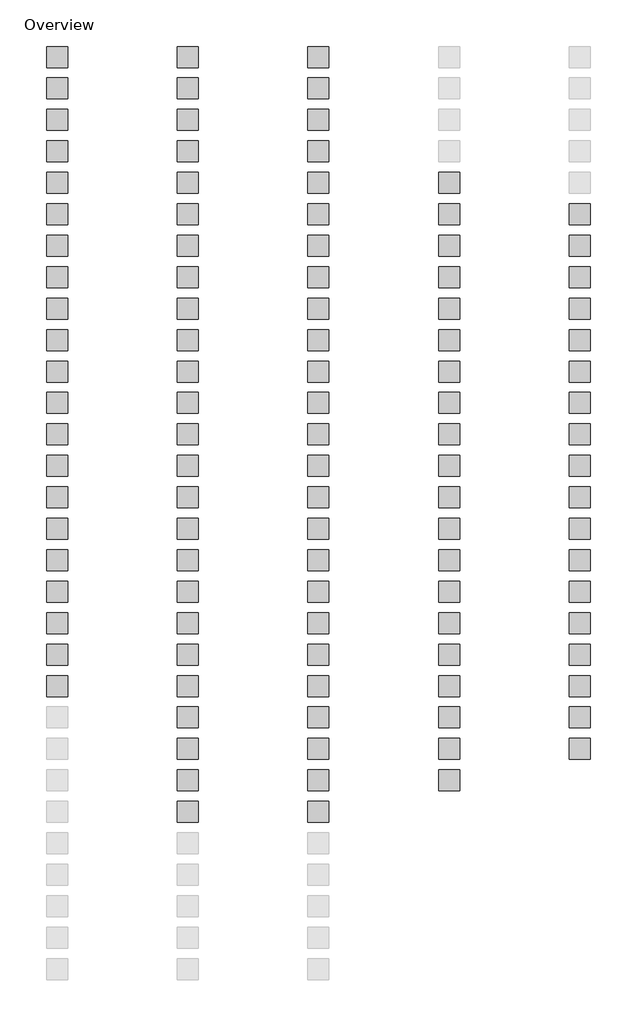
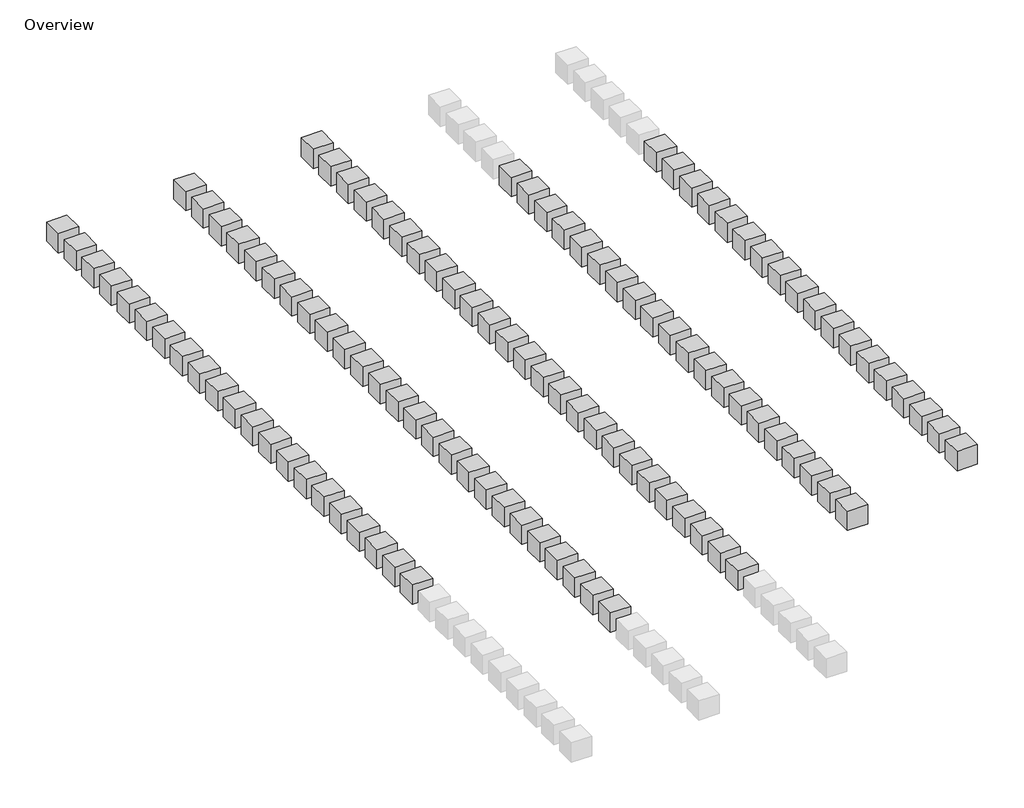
# One storey, part 3 of 5: 109 proxies.
"""IFC4 building model written with IfcOpenShell, lengths in millimetres."""

from ifc_helpers import new_model, si_unit, origin, place, context, project, spatial, transform, mapped, element, save
from components import material_box_material_box_61bd0c43

model = new_model("IFC4")

# Units and contexts
model_context = context("Model", 3, world=origin())
ifc_project = project(units=[si_unit("LENGTHUNIT", "METRE", prefix="MILLI")], contexts=[model_context])

# Site, building, storey
site = spatial("IfcSite", under=ifc_project)
building = spatial("IfcBuilding", under=site)
storey = spatial("IfcBuildingStorey", under=building, Name="Overview", Elevation=0.0)

# Proxies
placement = place(None, origin())
material_box_material_box_shape = material_box_material_box_61bd0c43(model_context)
element("IfcBuildingElementProxy", 1, Name="Material Box : Material Box", ObjectType="Material Box : Material Box", at=placement, inside=storey, context=model_context, shape_type="MappedRepresentation", body=[
    mapped(material_box_material_box_shape, transform((18647.4969971, -66489.0736223, 0.0), x_axis=(1.0, 0.0, 0.0), y_axis=(0.0, 1.0, 0.0), z_axis=(0.0, 0.0, 1.0))),
])
element("IfcBuildingElementProxy", 2, Name="Material Box : Material Box", ObjectType="Material Box : Material Box", at=placement, inside=storey, context=model_context, shape_type="MappedRepresentation", body=[
    mapped(material_box_material_box_shape, transform((4398.0969971, -40200.0736223, 0.0), x_axis=(1.0, 0.0, 0.0), y_axis=(0.0, 1.0, 0.0), z_axis=(0.0, 0.0, 1.0))),
])
element("IfcBuildingElementProxy", 3, Name="Material Box : Material Box", ObjectType="Material Box : Material Box", at=placement, inside=storey, context=model_context, shape_type="MappedRepresentation", body=[
    mapped(material_box_material_box_shape, transform((9147.8969971, -40200.0736223, 0.0), x_axis=(1.0, 0.0, 0.0), y_axis=(0.0, 1.0, 0.0), z_axis=(0.0, 0.0, 1.0))),
])
element("IfcBuildingElementProxy", 4, Name="Material Box : Material Box", ObjectType="Material Box : Material Box", at=placement, inside=storey, context=model_context, shape_type="MappedRepresentation", body=[
    mapped(material_box_material_box_shape, transform((4398.0969971, -41343.0736223, 0.0), x_axis=(1.0, 0.0, 0.0), y_axis=(0.0, 1.0, 0.0), z_axis=(0.0, 0.0, 1.0))),
])
element("IfcBuildingElementProxy", 5, Name="Material Box : Material Box", ObjectType="Material Box : Material Box", at=placement, inside=storey, context=model_context, shape_type="MappedRepresentation", body=[
    mapped(material_box_material_box_shape, transform((9147.8969971, -41343.0736223, 0.0), x_axis=(1.0, 0.0, 0.0), y_axis=(0.0, 1.0, 0.0), z_axis=(0.0, 0.0, 1.0))),
])
element("IfcBuildingElementProxy", 6, Name="Material Box : Material Box", ObjectType="Material Box : Material Box", at=placement, inside=storey, context=model_context, shape_type="MappedRepresentation", body=[
    mapped(material_box_material_box_shape, transform((4398.0969971, -42486.0736223, 0.0), x_axis=(1.0, 0.0, 0.0), y_axis=(0.0, 1.0, 0.0), z_axis=(0.0, 0.0, 1.0))),
])
element("IfcBuildingElementProxy", 7, Name="Material Box : Material Box", ObjectType="Material Box : Material Box", at=placement, inside=storey, context=model_context, shape_type="MappedRepresentation", body=[
    mapped(material_box_material_box_shape, transform((9147.8969971, -42486.0736223, 0.0), x_axis=(1.0, 0.0, 0.0), y_axis=(0.0, 1.0, 0.0), z_axis=(0.0, 0.0, 1.0))),
])
element("IfcBuildingElementProxy", 8, Name="Material Box : Material Box", ObjectType="Material Box : Material Box", at=placement, inside=storey, context=model_context, shape_type="MappedRepresentation", body=[
    mapped(material_box_material_box_shape, transform((4398.0969971, -43629.0736223, 0.0), x_axis=(1.0, 0.0, 0.0), y_axis=(0.0, 1.0, 0.0), z_axis=(0.0, 0.0, 1.0))),
])
element("IfcBuildingElementProxy", 9, Name="Material Box : Material Box", ObjectType="Material Box : Material Box", at=placement, inside=storey, context=model_context, shape_type="MappedRepresentation", body=[
    mapped(material_box_material_box_shape, transform((9147.8969971, -43629.0736223, 0.0), x_axis=(1.0, 0.0, 0.0), y_axis=(0.0, 1.0, 0.0), z_axis=(0.0, 0.0, 1.0))),
])
element("IfcBuildingElementProxy", 10, Name="Material Box : Material Box", ObjectType="Material Box : Material Box", at=placement, inside=storey, context=model_context, shape_type="MappedRepresentation", body=[
    mapped(material_box_material_box_shape, transform((4398.0969971, -44772.0736223, 0.0), x_axis=(1.0, 0.0, 0.0), y_axis=(0.0, 1.0, 0.0), z_axis=(0.0, 0.0, 1.0))),
])
element("IfcBuildingElementProxy", 11, Name="Material Box : Material Box", ObjectType="Material Box : Material Box", at=placement, inside=storey, context=model_context, shape_type="MappedRepresentation", body=[
    mapped(material_box_material_box_shape, transform((9147.8969971, -44772.0736223, 0.0), x_axis=(1.0, 0.0, 0.0), y_axis=(0.0, 1.0, 0.0), z_axis=(0.0, 0.0, 1.0))),
])
element("IfcBuildingElementProxy", 12, Name="Material Box : Material Box", ObjectType="Material Box : Material Box", at=placement, inside=storey, context=model_context, shape_type="MappedRepresentation", body=[
    mapped(material_box_material_box_shape, transform((4398.0969971, -45915.0736223, 0.0), x_axis=(1.0, 0.0, 0.0), y_axis=(0.0, 1.0, 0.0), z_axis=(0.0, 0.0, 1.0))),
])
element("IfcBuildingElementProxy", 13, Name="Material Box : Material Box", ObjectType="Material Box : Material Box", at=placement, inside=storey, context=model_context, shape_type="MappedRepresentation", body=[
    mapped(material_box_material_box_shape, transform((9147.8969971, -45915.0736223, 0.0), x_axis=(1.0, 0.0, 0.0), y_axis=(0.0, 1.0, 0.0), z_axis=(0.0, 0.0, 1.0))),
])
element("IfcBuildingElementProxy", 14, Name="Material Box : Material Box", ObjectType="Material Box : Material Box", at=placement, inside=storey, context=model_context, shape_type="MappedRepresentation", body=[
    mapped(material_box_material_box_shape, transform((4398.0969971, -47058.0736223, 0.0), x_axis=(1.0, 0.0, 0.0), y_axis=(0.0, 1.0, 0.0), z_axis=(0.0, 0.0, 1.0))),
])
element("IfcBuildingElementProxy", 15, Name="Material Box : Material Box", ObjectType="Material Box : Material Box", at=placement, inside=storey, context=model_context, shape_type="MappedRepresentation", body=[
    mapped(material_box_material_box_shape, transform((9147.8969971, -47058.0736223, 0.0), x_axis=(1.0, 0.0, 0.0), y_axis=(0.0, 1.0, 0.0), z_axis=(0.0, 0.0, 1.0))),
])
element("IfcBuildingElementProxy", 16, Name="Material Box : Material Box", ObjectType="Material Box : Material Box", at=placement, inside=storey, context=model_context, shape_type="MappedRepresentation", body=[
    mapped(material_box_material_box_shape, transform((4398.0969971, -48201.0736223, 0.0), x_axis=(1.0, 0.0, 0.0), y_axis=(0.0, 1.0, 0.0), z_axis=(0.0, 0.0, 1.0))),
])
element("IfcBuildingElementProxy", 17, Name="Material Box : Material Box", ObjectType="Material Box : Material Box", at=placement, inside=storey, context=model_context, shape_type="MappedRepresentation", body=[
    mapped(material_box_material_box_shape, transform((9147.8969971, -48201.0736223, 0.0), x_axis=(1.0, 0.0, 0.0), y_axis=(0.0, 1.0, 0.0), z_axis=(0.0, 0.0, 1.0))),
])
element("IfcBuildingElementProxy", 18, Name="Material Box : Material Box", ObjectType="Material Box : Material Box", at=placement, inside=storey, context=model_context, shape_type="MappedRepresentation", body=[
    mapped(material_box_material_box_shape, transform((4398.0969971, -49344.0736223, 0.0), x_axis=(1.0, 0.0, 0.0), y_axis=(0.0, 1.0, 0.0), z_axis=(0.0, 0.0, 1.0))),
])
element("IfcBuildingElementProxy", 19, Name="Material Box : Material Box", ObjectType="Material Box : Material Box", at=placement, inside=storey, context=model_context, shape_type="MappedRepresentation", body=[
    mapped(material_box_material_box_shape, transform((9147.8969971, -49344.0736223, 0.0), x_axis=(1.0, 0.0, 0.0), y_axis=(0.0, 1.0, 0.0), z_axis=(0.0, 0.0, 1.0))),
])
element("IfcBuildingElementProxy", 20, Name="Material Box : Material Box", ObjectType="Material Box : Material Box", at=placement, inside=storey, context=model_context, shape_type="MappedRepresentation", body=[
    mapped(material_box_material_box_shape, transform((4398.0969971, -50487.0736223, 0.0), x_axis=(1.0, 0.0, 0.0), y_axis=(0.0, 1.0, 0.0), z_axis=(0.0, 0.0, 1.0))),
])
element("IfcBuildingElementProxy", 21, Name="Material Box : Material Box", ObjectType="Material Box : Material Box", at=placement, inside=storey, context=model_context, shape_type="MappedRepresentation", body=[
    mapped(material_box_material_box_shape, transform((9147.8969971, -50487.0736223, 0.0), x_axis=(1.0, 0.0, 0.0), y_axis=(0.0, 1.0, 0.0), z_axis=(0.0, 0.0, 1.0))),
])
element("IfcBuildingElementProxy", 22, Name="Material Box : Material Box", ObjectType="Material Box : Material Box", at=placement, inside=storey, context=model_context, shape_type="MappedRepresentation", body=[
    mapped(material_box_material_box_shape, transform((4398.0969971, -51630.0736223, 0.0), x_axis=(1.0, 0.0, 0.0), y_axis=(0.0, 1.0, 0.0), z_axis=(0.0, 0.0, 1.0))),
])
element("IfcBuildingElementProxy", 23, Name="Material Box : Material Box", ObjectType="Material Box : Material Box", at=placement, inside=storey, context=model_context, shape_type="MappedRepresentation", body=[
    mapped(material_box_material_box_shape, transform((9147.8969971, -51630.0736223, 0.0), x_axis=(1.0, 0.0, 0.0), y_axis=(0.0, 1.0, 0.0), z_axis=(0.0, 0.0, 1.0))),
])
element("IfcBuildingElementProxy", 24, Name="Material Box : Material Box", ObjectType="Material Box : Material Box", at=placement, inside=storey, context=model_context, shape_type="MappedRepresentation", body=[
    mapped(material_box_material_box_shape, transform((4398.0969971, -52773.0736223, 0.0), x_axis=(1.0, 0.0, 0.0), y_axis=(0.0, 1.0, 0.0), z_axis=(0.0, 0.0, 1.0))),
])
element("IfcBuildingElementProxy", 25, Name="Material Box : Material Box", ObjectType="Material Box : Material Box", at=placement, inside=storey, context=model_context, shape_type="MappedRepresentation", body=[
    mapped(material_box_material_box_shape, transform((9147.8969971, -52773.0736223, 0.0), x_axis=(1.0, 0.0, 0.0), y_axis=(0.0, 1.0, 0.0), z_axis=(0.0, 0.0, 1.0))),
])
element("IfcBuildingElementProxy", 26, Name="Material Box : Material Box", ObjectType="Material Box : Material Box", at=placement, inside=storey, context=model_context, shape_type="MappedRepresentation", body=[
    mapped(material_box_material_box_shape, transform((4398.0969971, -53916.0736223, 0.0), x_axis=(1.0, 0.0, 0.0), y_axis=(0.0, 1.0, 0.0), z_axis=(0.0, 0.0, 1.0))),
])
element("IfcBuildingElementProxy", 27, Name="Material Box : Material Box", ObjectType="Material Box : Material Box", at=placement, inside=storey, context=model_context, shape_type="MappedRepresentation", body=[
    mapped(material_box_material_box_shape, transform((9147.8969971, -53916.0736223, 0.0), x_axis=(1.0, 0.0, 0.0), y_axis=(0.0, 1.0, 0.0), z_axis=(0.0, 0.0, 1.0))),
])
element("IfcBuildingElementProxy", 28, Name="Material Box : Material Box", ObjectType="Material Box : Material Box", at=placement, inside=storey, context=model_context, shape_type="MappedRepresentation", body=[
    mapped(material_box_material_box_shape, transform((4398.0969971, -55059.0736223, 0.0), x_axis=(1.0, 0.0, 0.0), y_axis=(0.0, 1.0, 0.0), z_axis=(0.0, 0.0, 1.0))),
])
element("IfcBuildingElementProxy", 29, Name="Material Box : Material Box", ObjectType="Material Box : Material Box", at=placement, inside=storey, context=model_context, shape_type="MappedRepresentation", body=[
    mapped(material_box_material_box_shape, transform((9147.8969971, -55059.0736223, 0.0), x_axis=(1.0, 0.0, 0.0), y_axis=(0.0, 1.0, 0.0), z_axis=(0.0, 0.0, 1.0))),
])
element("IfcBuildingElementProxy", 30, Name="Material Box : Material Box", ObjectType="Material Box : Material Box", at=placement, inside=storey, context=model_context, shape_type="MappedRepresentation", body=[
    mapped(material_box_material_box_shape, transform((4398.0969971, -56202.0736223, 0.0), x_axis=(1.0, 0.0, 0.0), y_axis=(0.0, 1.0, 0.0), z_axis=(0.0, 0.0, 1.0))),
])
element("IfcBuildingElementProxy", 31, Name="Material Box : Material Box", ObjectType="Material Box : Material Box", at=placement, inside=storey, context=model_context, shape_type="MappedRepresentation", body=[
    mapped(material_box_material_box_shape, transform((9147.8969971, -56202.0736223, 0.0), x_axis=(1.0, 0.0, 0.0), y_axis=(0.0, 1.0, 0.0), z_axis=(0.0, 0.0, 1.0))),
])
element("IfcBuildingElementProxy", 32, Name="Material Box : Material Box", ObjectType="Material Box : Material Box", at=placement, inside=storey, context=model_context, shape_type="MappedRepresentation", body=[
    mapped(material_box_material_box_shape, transform((4398.0969971, -57345.0736223, 0.0), x_axis=(1.0, 0.0, 0.0), y_axis=(0.0, 1.0, 0.0), z_axis=(0.0, 0.0, 1.0))),
])
element("IfcBuildingElementProxy", 33, Name="Material Box : Material Box", ObjectType="Material Box : Material Box", at=placement, inside=storey, context=model_context, shape_type="MappedRepresentation", body=[
    mapped(material_box_material_box_shape, transform((9147.8969971, -57345.0736223, 0.0), x_axis=(1.0, 0.0, 0.0), y_axis=(0.0, 1.0, 0.0), z_axis=(0.0, 0.0, 1.0))),
])
element("IfcBuildingElementProxy", 34, Name="Material Box : Material Box", ObjectType="Material Box : Material Box", at=placement, inside=storey, context=model_context, shape_type="MappedRepresentation", body=[
    mapped(material_box_material_box_shape, transform((13897.6969971, -40200.0736223, 0.0), x_axis=(1.0, 0.0, 0.0), y_axis=(0.0, 1.0, 0.0), z_axis=(0.0, 0.0, 1.0))),
])
element("IfcBuildingElementProxy", 35, Name="Material Box : Material Box", ObjectType="Material Box : Material Box", at=placement, inside=storey, context=model_context, shape_type="MappedRepresentation", body=[
    mapped(material_box_material_box_shape, transform((13897.6969971, -41343.0736223, 0.0), x_axis=(1.0, 0.0, 0.0), y_axis=(0.0, 1.0, 0.0), z_axis=(0.0, 0.0, 1.0))),
])
element("IfcBuildingElementProxy", 36, Name="Material Box : Material Box", ObjectType="Material Box : Material Box", at=placement, inside=storey, context=model_context, shape_type="MappedRepresentation", body=[
    mapped(material_box_material_box_shape, transform((13897.6969971, -42486.0736223, 0.0), x_axis=(1.0, 0.0, 0.0), y_axis=(0.0, 1.0, 0.0), z_axis=(0.0, 0.0, 1.0))),
])
element("IfcBuildingElementProxy", 37, Name="Material Box : Material Box", ObjectType="Material Box : Material Box", at=placement, inside=storey, context=model_context, shape_type="MappedRepresentation", body=[
    mapped(material_box_material_box_shape, transform((13897.6969971, -43629.0736223, 0.0), x_axis=(1.0, 0.0, 0.0), y_axis=(0.0, 1.0, 0.0), z_axis=(0.0, 0.0, 1.0))),
])
element("IfcBuildingElementProxy", 38, Name="Material Box : Material Box", ObjectType="Material Box : Material Box", at=placement, inside=storey, context=model_context, shape_type="MappedRepresentation", body=[
    mapped(material_box_material_box_shape, transform((13897.6969971, -44772.0736223, 0.0), x_axis=(1.0, 0.0, 0.0), y_axis=(0.0, 1.0, 0.0), z_axis=(0.0, 0.0, 1.0))),
])
element("IfcBuildingElementProxy", 39, Name="Material Box : Material Box", ObjectType="Material Box : Material Box", at=placement, inside=storey, context=model_context, shape_type="MappedRepresentation", body=[
    mapped(material_box_material_box_shape, transform((18647.4969971, -44772.0736223, 0.0), x_axis=(1.0, 0.0, 0.0), y_axis=(0.0, 1.0, 0.0), z_axis=(0.0, 0.0, 1.0))),
])
element("IfcBuildingElementProxy", 40, Name="Material Box : Material Box", ObjectType="Material Box : Material Box", at=placement, inside=storey, context=model_context, shape_type="MappedRepresentation", body=[
    mapped(material_box_material_box_shape, transform((13897.6969971, -45915.0736223, 0.0), x_axis=(1.0, 0.0, 0.0), y_axis=(0.0, 1.0, 0.0), z_axis=(0.0, 0.0, 1.0))),
])
element("IfcBuildingElementProxy", 41, Name="Material Box : Material Box", ObjectType="Material Box : Material Box", at=placement, inside=storey, context=model_context, shape_type="MappedRepresentation", body=[
    mapped(material_box_material_box_shape, transform((18647.4969971, -45915.0736223, 0.0), x_axis=(1.0, 0.0, 0.0), y_axis=(0.0, 1.0, 0.0), z_axis=(0.0, 0.0, 1.0))),
])
element("IfcBuildingElementProxy", 42, Name="Material Box : Material Box", ObjectType="Material Box : Material Box", at=placement, inside=storey, context=model_context, shape_type="MappedRepresentation", body=[
    mapped(material_box_material_box_shape, transform((13897.6969971, -47058.0736223, 0.0), x_axis=(1.0, 0.0, 0.0), y_axis=(0.0, 1.0, 0.0), z_axis=(0.0, 0.0, 1.0))),
])
element("IfcBuildingElementProxy", 43, Name="Material Box : Material Box", ObjectType="Material Box : Material Box", at=placement, inside=storey, context=model_context, shape_type="MappedRepresentation", body=[
    mapped(material_box_material_box_shape, transform((18647.4969971, -47058.0736223, 0.0), x_axis=(1.0, 0.0, 0.0), y_axis=(0.0, 1.0, 0.0), z_axis=(0.0, 0.0, 1.0))),
])
element("IfcBuildingElementProxy", 44, Name="Material Box : Material Box", ObjectType="Material Box : Material Box", at=placement, inside=storey, context=model_context, shape_type="MappedRepresentation", body=[
    mapped(material_box_material_box_shape, transform((13897.6969971, -48201.0736223, 0.0), x_axis=(1.0, 0.0, 0.0), y_axis=(0.0, 1.0, 0.0), z_axis=(0.0, 0.0, 1.0))),
])
element("IfcBuildingElementProxy", 45, Name="Material Box : Material Box", ObjectType="Material Box : Material Box", at=placement, inside=storey, context=model_context, shape_type="MappedRepresentation", body=[
    mapped(material_box_material_box_shape, transform((18647.4969971, -48201.0736223, 0.0), x_axis=(1.0, 0.0, 0.0), y_axis=(0.0, 1.0, 0.0), z_axis=(0.0, 0.0, 1.0))),
])
element("IfcBuildingElementProxy", 46, Name="Material Box : Material Box", ObjectType="Material Box : Material Box", at=placement, inside=storey, context=model_context, shape_type="MappedRepresentation", body=[
    mapped(material_box_material_box_shape, transform((13897.6969971, -49344.0736223, 0.0), x_axis=(1.0, 0.0, 0.0), y_axis=(0.0, 1.0, 0.0), z_axis=(0.0, 0.0, 1.0))),
])
element("IfcBuildingElementProxy", 47, Name="Material Box : Material Box", ObjectType="Material Box : Material Box", at=placement, inside=storey, context=model_context, shape_type="MappedRepresentation", body=[
    mapped(material_box_material_box_shape, transform((18647.4969971, -49344.0736223, 0.0), x_axis=(1.0, 0.0, 0.0), y_axis=(0.0, 1.0, 0.0), z_axis=(0.0, 0.0, 1.0))),
])
element("IfcBuildingElementProxy", 48, Name="Material Box : Material Box", ObjectType="Material Box : Material Box", at=placement, inside=storey, context=model_context, shape_type="MappedRepresentation", body=[
    mapped(material_box_material_box_shape, transform((13897.6969971, -50487.0736223, 0.0), x_axis=(1.0, 0.0, 0.0), y_axis=(0.0, 1.0, 0.0), z_axis=(0.0, 0.0, 1.0))),
])
element("IfcBuildingElementProxy", 49, Name="Material Box : Material Box", ObjectType="Material Box : Material Box", at=placement, inside=storey, context=model_context, shape_type="MappedRepresentation", body=[
    mapped(material_box_material_box_shape, transform((18647.4969971, -50487.0736223, 0.0), x_axis=(1.0, 0.0, 0.0), y_axis=(0.0, 1.0, 0.0), z_axis=(0.0, 0.0, 1.0))),
])
element("IfcBuildingElementProxy", 50, Name="Material Box : Material Box", ObjectType="Material Box : Material Box", at=placement, inside=storey, context=model_context, shape_type="MappedRepresentation", body=[
    mapped(material_box_material_box_shape, transform((13897.6969971, -51630.0736223, 0.0), x_axis=(1.0, 0.0, 0.0), y_axis=(0.0, 1.0, 0.0), z_axis=(0.0, 0.0, 1.0))),
])
element("IfcBuildingElementProxy", 51, Name="Material Box : Material Box", ObjectType="Material Box : Material Box", at=placement, inside=storey, context=model_context, shape_type="MappedRepresentation", body=[
    mapped(material_box_material_box_shape, transform((18647.4969971, -51630.0736223, 0.0), x_axis=(1.0, 0.0, 0.0), y_axis=(0.0, 1.0, 0.0), z_axis=(0.0, 0.0, 1.0))),
])
element("IfcBuildingElementProxy", 52, Name="Material Box : Material Box", ObjectType="Material Box : Material Box", at=placement, inside=storey, context=model_context, shape_type="MappedRepresentation", body=[
    mapped(material_box_material_box_shape, transform((13897.6969971, -52773.0736223, 0.0), x_axis=(1.0, 0.0, 0.0), y_axis=(0.0, 1.0, 0.0), z_axis=(0.0, 0.0, 1.0))),
])
element("IfcBuildingElementProxy", 53, Name="Material Box : Material Box", ObjectType="Material Box : Material Box", at=placement, inside=storey, context=model_context, shape_type="MappedRepresentation", body=[
    mapped(material_box_material_box_shape, transform((18647.4969971, -52773.0736223, 0.0), x_axis=(1.0, 0.0, 0.0), y_axis=(0.0, 1.0, 0.0), z_axis=(0.0, 0.0, 1.0))),
])
element("IfcBuildingElementProxy", 54, Name="Material Box : Material Box", ObjectType="Material Box : Material Box", at=placement, inside=storey, context=model_context, shape_type="MappedRepresentation", body=[
    mapped(material_box_material_box_shape, transform((13897.6969971, -53916.0736223, 0.0), x_axis=(1.0, 0.0, 0.0), y_axis=(0.0, 1.0, 0.0), z_axis=(0.0, 0.0, 1.0))),
])
element("IfcBuildingElementProxy", 55, Name="Material Box : Material Box", ObjectType="Material Box : Material Box", at=placement, inside=storey, context=model_context, shape_type="MappedRepresentation", body=[
    mapped(material_box_material_box_shape, transform((18647.4969971, -53916.0736223, 0.0), x_axis=(1.0, 0.0, 0.0), y_axis=(0.0, 1.0, 0.0), z_axis=(0.0, 0.0, 1.0))),
])
element("IfcBuildingElementProxy", 56, Name="Material Box : Material Box", ObjectType="Material Box : Material Box", at=placement, inside=storey, context=model_context, shape_type="MappedRepresentation", body=[
    mapped(material_box_material_box_shape, transform((13897.6969971, -55059.0736223, 0.0), x_axis=(1.0, 0.0, 0.0), y_axis=(0.0, 1.0, 0.0), z_axis=(0.0, 0.0, 1.0))),
])
element("IfcBuildingElementProxy", 57, Name="Material Box : Material Box", ObjectType="Material Box : Material Box", at=placement, inside=storey, context=model_context, shape_type="MappedRepresentation", body=[
    mapped(material_box_material_box_shape, transform((18647.4969971, -55059.0736223, 0.0), x_axis=(1.0, 0.0, 0.0), y_axis=(0.0, 1.0, 0.0), z_axis=(0.0, 0.0, 1.0))),
])
element("IfcBuildingElementProxy", 58, Name="Material Box : Material Box", ObjectType="Material Box : Material Box", at=placement, inside=storey, context=model_context, shape_type="MappedRepresentation", body=[
    mapped(material_box_material_box_shape, transform((13897.6969971, -56202.0736223, 0.0), x_axis=(1.0, 0.0, 0.0), y_axis=(0.0, 1.0, 0.0), z_axis=(0.0, 0.0, 1.0))),
])
element("IfcBuildingElementProxy", 59, Name="Material Box : Material Box", ObjectType="Material Box : Material Box", at=placement, inside=storey, context=model_context, shape_type="MappedRepresentation", body=[
    mapped(material_box_material_box_shape, transform((18647.4969971, -56202.0736223, 0.0), x_axis=(1.0, 0.0, 0.0), y_axis=(0.0, 1.0, 0.0), z_axis=(0.0, 0.0, 1.0))),
])
element("IfcBuildingElementProxy", 60, Name="Material Box : Material Box", ObjectType="Material Box : Material Box", at=placement, inside=storey, context=model_context, shape_type="MappedRepresentation", body=[
    mapped(material_box_material_box_shape, transform((13897.6969971, -57345.0736223, 0.0), x_axis=(1.0, 0.0, 0.0), y_axis=(0.0, 1.0, 0.0), z_axis=(0.0, 0.0, 1.0))),
])
element("IfcBuildingElementProxy", 61, Name="Material Box : Material Box", ObjectType="Material Box : Material Box", at=placement, inside=storey, context=model_context, shape_type="MappedRepresentation", body=[
    mapped(material_box_material_box_shape, transform((18647.4969971, -57345.0736223, 0.0), x_axis=(1.0, 0.0, 0.0), y_axis=(0.0, 1.0, 0.0), z_axis=(0.0, 0.0, 1.0))),
])
element("IfcBuildingElementProxy", 62, Name="Material Box : Material Box", ObjectType="Material Box : Material Box", at=placement, inside=storey, context=model_context, shape_type="MappedRepresentation", body=[
    mapped(material_box_material_box_shape, transform((23397.2969971, -45915.0736223, 0.0), x_axis=(1.0, 0.0, 0.0), y_axis=(0.0, 1.0, 0.0), z_axis=(0.0, 0.0, 1.0))),
])
element("IfcBuildingElementProxy", 63, Name="Material Box : Material Box", ObjectType="Material Box : Material Box", at=placement, inside=storey, context=model_context, shape_type="MappedRepresentation", body=[
    mapped(material_box_material_box_shape, transform((23397.2969971, -47058.0736223, 0.0), x_axis=(1.0, 0.0, 0.0), y_axis=(0.0, 1.0, 0.0), z_axis=(0.0, 0.0, 1.0))),
])
element("IfcBuildingElementProxy", 64, Name="Material Box : Material Box", ObjectType="Material Box : Material Box", at=placement, inside=storey, context=model_context, shape_type="MappedRepresentation", body=[
    mapped(material_box_material_box_shape, transform((23397.2969971, -48201.0736223, 0.0), x_axis=(1.0, 0.0, 0.0), y_axis=(0.0, 1.0, 0.0), z_axis=(0.0, 0.0, 1.0))),
])
element("IfcBuildingElementProxy", 65, Name="Material Box : Material Box", ObjectType="Material Box : Material Box", at=placement, inside=storey, context=model_context, shape_type="MappedRepresentation", body=[
    mapped(material_box_material_box_shape, transform((23397.2969971, -49344.0736223, 0.0), x_axis=(1.0, 0.0, 0.0), y_axis=(0.0, 1.0, 0.0), z_axis=(0.0, 0.0, 1.0))),
])
element("IfcBuildingElementProxy", 66, Name="Material Box : Material Box", ObjectType="Material Box : Material Box", at=placement, inside=storey, context=model_context, shape_type="MappedRepresentation", body=[
    mapped(material_box_material_box_shape, transform((23397.2969971, -50487.0736223, 0.0), x_axis=(1.0, 0.0, 0.0), y_axis=(0.0, 1.0, 0.0), z_axis=(0.0, 0.0, 1.0))),
])
element("IfcBuildingElementProxy", 67, Name="Material Box : Material Box", ObjectType="Material Box : Material Box", at=placement, inside=storey, context=model_context, shape_type="MappedRepresentation", body=[
    mapped(material_box_material_box_shape, transform((23397.2969971, -51630.0736223, 0.0), x_axis=(1.0, 0.0, 0.0), y_axis=(0.0, 1.0, 0.0), z_axis=(0.0, 0.0, 1.0))),
])
element("IfcBuildingElementProxy", 68, Name="Material Box : Material Box", ObjectType="Material Box : Material Box", at=placement, inside=storey, context=model_context, shape_type="MappedRepresentation", body=[
    mapped(material_box_material_box_shape, transform((23397.2969971, -52773.0736223, 0.0), x_axis=(1.0, 0.0, 0.0), y_axis=(0.0, 1.0, 0.0), z_axis=(0.0, 0.0, 1.0))),
])
element("IfcBuildingElementProxy", 69, Name="Material Box : Material Box", ObjectType="Material Box : Material Box", at=placement, inside=storey, context=model_context, shape_type="MappedRepresentation", body=[
    mapped(material_box_material_box_shape, transform((23397.2969971, -53916.0736223, 0.0), x_axis=(1.0, 0.0, 0.0), y_axis=(0.0, 1.0, 0.0), z_axis=(0.0, 0.0, 1.0))),
])
element("IfcBuildingElementProxy", 70, Name="Material Box : Material Box", ObjectType="Material Box : Material Box", at=placement, inside=storey, context=model_context, shape_type="MappedRepresentation", body=[
    mapped(material_box_material_box_shape, transform((23397.2969971, -55059.0736223, 0.0), x_axis=(1.0, 0.0, 0.0), y_axis=(0.0, 1.0, 0.0), z_axis=(0.0, 0.0, 1.0))),
])
element("IfcBuildingElementProxy", 71, Name="Material Box : Material Box", ObjectType="Material Box : Material Box", at=placement, inside=storey, context=model_context, shape_type="MappedRepresentation", body=[
    mapped(material_box_material_box_shape, transform((23397.2969971, -56202.0736223, 0.0), x_axis=(1.0, 0.0, 0.0), y_axis=(0.0, 1.0, 0.0), z_axis=(0.0, 0.0, 1.0))),
])
element("IfcBuildingElementProxy", 72, Name="Material Box : Material Box", ObjectType="Material Box : Material Box", at=placement, inside=storey, context=model_context, shape_type="MappedRepresentation", body=[
    mapped(material_box_material_box_shape, transform((23397.2969971, -57345.0736223, 0.0), x_axis=(1.0, 0.0, 0.0), y_axis=(0.0, 1.0, 0.0), z_axis=(0.0, 0.0, 1.0))),
])
element("IfcBuildingElementProxy", 73, Name="Material Box : Material Box", ObjectType="Material Box : Material Box", at=placement, inside=storey, context=model_context, shape_type="MappedRepresentation", body=[
    mapped(material_box_material_box_shape, transform((4398.0969971, -58488.0736223, 0.0), x_axis=(1.0, 0.0, 0.0), y_axis=(0.0, 1.0, 0.0), z_axis=(0.0, 0.0, 1.0))),
])
element("IfcBuildingElementProxy", 74, Name="Material Box : Material Box", ObjectType="Material Box : Material Box", at=placement, inside=storey, context=model_context, shape_type="MappedRepresentation", body=[
    mapped(material_box_material_box_shape, transform((4398.0969971, -59631.0736223, 0.0), x_axis=(1.0, 0.0, 0.0), y_axis=(0.0, 1.0, 0.0), z_axis=(0.0, 0.0, 1.0))),
])
element("IfcBuildingElementProxy", 75, Name="Material Box : Material Box", ObjectType="Material Box : Material Box", at=placement, inside=storey, context=model_context, shape_type="MappedRepresentation", body=[
    mapped(material_box_material_box_shape, transform((4398.0969971, -60774.0736223, 0.0), x_axis=(1.0, 0.0, 0.0), y_axis=(0.0, 1.0, 0.0), z_axis=(0.0, 0.0, 1.0))),
])
element("IfcBuildingElementProxy", 76, Name="Material Box : Material Box", ObjectType="Material Box : Material Box", at=placement, inside=storey, context=model_context, shape_type="MappedRepresentation", body=[
    mapped(material_box_material_box_shape, transform((4398.0969971, -61917.0736223, 0.0), x_axis=(1.0, 0.0, 0.0), y_axis=(0.0, 1.0, 0.0), z_axis=(0.0, 0.0, 1.0))),
])
element("IfcBuildingElementProxy", 77, Name="Material Box : Material Box", ObjectType="Material Box : Material Box", at=placement, inside=storey, context=model_context, shape_type="MappedRepresentation", body=[
    mapped(material_box_material_box_shape, transform((4398.0969971, -63060.0736223, 0.0), x_axis=(1.0, 0.0, 0.0), y_axis=(0.0, 1.0, 0.0), z_axis=(0.0, 0.0, 1.0))),
])
element("IfcBuildingElementProxy", 78, Name="Material Box : Material Box", ObjectType="Material Box : Material Box", at=placement, inside=storey, context=model_context, shape_type="MappedRepresentation", body=[
    mapped(material_box_material_box_shape, transform((9147.8969971, -58488.0736223, 0.0), x_axis=(1.0, 0.0, 0.0), y_axis=(0.0, 1.0, 0.0), z_axis=(0.0, 0.0, 1.0))),
])
element("IfcBuildingElementProxy", 79, Name="Material Box : Material Box", ObjectType="Material Box : Material Box", at=placement, inside=storey, context=model_context, shape_type="MappedRepresentation", body=[
    mapped(material_box_material_box_shape, transform((13897.6969971, -58488.0736223, 0.0), x_axis=(1.0, 0.0, 0.0), y_axis=(0.0, 1.0, 0.0), z_axis=(0.0, 0.0, 1.0))),
])
element("IfcBuildingElementProxy", 80, Name="Material Box : Material Box", ObjectType="Material Box : Material Box", at=placement, inside=storey, context=model_context, shape_type="MappedRepresentation", body=[
    mapped(material_box_material_box_shape, transform((9147.8969971, -59631.0736223, 0.0), x_axis=(1.0, 0.0, 0.0), y_axis=(0.0, 1.0, 0.0), z_axis=(0.0, 0.0, 1.0))),
])
element("IfcBuildingElementProxy", 81, Name="Material Box : Material Box", ObjectType="Material Box : Material Box", at=placement, inside=storey, context=model_context, shape_type="MappedRepresentation", body=[
    mapped(material_box_material_box_shape, transform((13897.6969971, -59631.0736223, 0.0), x_axis=(1.0, 0.0, 0.0), y_axis=(0.0, 1.0, 0.0), z_axis=(0.0, 0.0, 1.0))),
])
element("IfcBuildingElementProxy", 82, Name="Material Box : Material Box", ObjectType="Material Box : Material Box", at=placement, inside=storey, context=model_context, shape_type="MappedRepresentation", body=[
    mapped(material_box_material_box_shape, transform((9147.8969971, -60774.0736223, 0.0), x_axis=(1.0, 0.0, 0.0), y_axis=(0.0, 1.0, 0.0), z_axis=(0.0, 0.0, 1.0))),
])
element("IfcBuildingElementProxy", 83, Name="Material Box : Material Box", ObjectType="Material Box : Material Box", at=placement, inside=storey, context=model_context, shape_type="MappedRepresentation", body=[
    mapped(material_box_material_box_shape, transform((13897.6969971, -60774.0736223, 0.0), x_axis=(1.0, 0.0, 0.0), y_axis=(0.0, 1.0, 0.0), z_axis=(0.0, 0.0, 1.0))),
])
element("IfcBuildingElementProxy", 84, Name="Material Box : Material Box", ObjectType="Material Box : Material Box", at=placement, inside=storey, context=model_context, shape_type="MappedRepresentation", body=[
    mapped(material_box_material_box_shape, transform((9147.8969971, -61917.0736223, 0.0), x_axis=(1.0, 0.0, 0.0), y_axis=(0.0, 1.0, 0.0), z_axis=(0.0, 0.0, 1.0))),
])
element("IfcBuildingElementProxy", 85, Name="Material Box : Material Box", ObjectType="Material Box : Material Box", at=placement, inside=storey, context=model_context, shape_type="MappedRepresentation", body=[
    mapped(material_box_material_box_shape, transform((13897.6969971, -61917.0736223, 0.0), x_axis=(1.0, 0.0, 0.0), y_axis=(0.0, 1.0, 0.0), z_axis=(0.0, 0.0, 1.0))),
])
element("IfcBuildingElementProxy", 86, Name="Material Box : Material Box", ObjectType="Material Box : Material Box", at=placement, inside=storey, context=model_context, shape_type="MappedRepresentation", body=[
    mapped(material_box_material_box_shape, transform((9147.8969971, -63060.0736223, 0.0), x_axis=(1.0, 0.0, 0.0), y_axis=(0.0, 1.0, 0.0), z_axis=(0.0, 0.0, 1.0))),
])
element("IfcBuildingElementProxy", 87, Name="Material Box : Material Box", ObjectType="Material Box : Material Box", at=placement, inside=storey, context=model_context, shape_type="MappedRepresentation", body=[
    mapped(material_box_material_box_shape, transform((13897.6969971, -63060.0736223, 0.0), x_axis=(1.0, 0.0, 0.0), y_axis=(0.0, 1.0, 0.0), z_axis=(0.0, 0.0, 1.0))),
])
element("IfcBuildingElementProxy", 88, Name="Material Box : Material Box", ObjectType="Material Box : Material Box", at=placement, inside=storey, context=model_context, shape_type="MappedRepresentation", body=[
    mapped(material_box_material_box_shape, transform((9147.8969971, -64203.0736223, 0.0), x_axis=(1.0, 0.0, 0.0), y_axis=(0.0, 1.0, 0.0), z_axis=(0.0, 0.0, 1.0))),
])
element("IfcBuildingElementProxy", 89, Name="Material Box : Material Box", ObjectType="Material Box : Material Box", at=placement, inside=storey, context=model_context, shape_type="MappedRepresentation", body=[
    mapped(material_box_material_box_shape, transform((13897.6969971, -64203.0736223, 0.0), x_axis=(1.0, 0.0, 0.0), y_axis=(0.0, 1.0, 0.0), z_axis=(0.0, 0.0, 1.0))),
])
element("IfcBuildingElementProxy", 90, Name="Material Box : Material Box", ObjectType="Material Box : Material Box", at=placement, inside=storey, context=model_context, shape_type="MappedRepresentation", body=[
    mapped(material_box_material_box_shape, transform((9147.8969971, -65346.0736223, 0.0), x_axis=(1.0, 0.0, 0.0), y_axis=(0.0, 1.0, 0.0), z_axis=(0.0, 0.0, 1.0))),
])
element("IfcBuildingElementProxy", 91, Name="Material Box : Material Box", ObjectType="Material Box : Material Box", at=placement, inside=storey, context=model_context, shape_type="MappedRepresentation", body=[
    mapped(material_box_material_box_shape, transform((13897.6969971, -65346.0736223, 0.0), x_axis=(1.0, 0.0, 0.0), y_axis=(0.0, 1.0, 0.0), z_axis=(0.0, 0.0, 1.0))),
])
element("IfcBuildingElementProxy", 92, Name="Material Box : Material Box", ObjectType="Material Box : Material Box", at=placement, inside=storey, context=model_context, shape_type="MappedRepresentation", body=[
    mapped(material_box_material_box_shape, transform((9147.8969971, -66489.0736223, 0.0), x_axis=(1.0, 0.0, 0.0), y_axis=(0.0, 1.0, 0.0), z_axis=(0.0, 0.0, 1.0))),
])
element("IfcBuildingElementProxy", 93, Name="Material Box : Material Box", ObjectType="Material Box : Material Box", at=placement, inside=storey, context=model_context, shape_type="MappedRepresentation", body=[
    mapped(material_box_material_box_shape, transform((13897.6969971, -66489.0736223, 0.0), x_axis=(1.0, 0.0, 0.0), y_axis=(0.0, 1.0, 0.0), z_axis=(0.0, 0.0, 1.0))),
])
element("IfcBuildingElementProxy", 94, Name="Material Box : Material Box", ObjectType="Material Box : Material Box", at=placement, inside=storey, context=model_context, shape_type="MappedRepresentation", body=[
    mapped(material_box_material_box_shape, transform((9147.8969971, -67632.0736223, 0.0), x_axis=(1.0, 0.0, 0.0), y_axis=(0.0, 1.0, 0.0), z_axis=(0.0, 0.0, 1.0))),
])
element("IfcBuildingElementProxy", 95, Name="Material Box : Material Box", ObjectType="Material Box : Material Box", at=placement, inside=storey, context=model_context, shape_type="MappedRepresentation", body=[
    mapped(material_box_material_box_shape, transform((13897.6969971, -67632.0736223, 0.0), x_axis=(1.0, 0.0, 0.0), y_axis=(0.0, 1.0, 0.0), z_axis=(0.0, 0.0, 1.0))),
])
element("IfcBuildingElementProxy", 96, Name="Material Box : Material Box", ObjectType="Material Box : Material Box", at=placement, inside=storey, context=model_context, shape_type="MappedRepresentation", body=[
    mapped(material_box_material_box_shape, transform((18647.4969971, -58488.0736223, 0.0), x_axis=(1.0, 0.0, 0.0), y_axis=(0.0, 1.0, 0.0), z_axis=(0.0, 0.0, 1.0))),
])
element("IfcBuildingElementProxy", 97, Name="Material Box : Material Box", ObjectType="Material Box : Material Box", at=placement, inside=storey, context=model_context, shape_type="MappedRepresentation", body=[
    mapped(material_box_material_box_shape, transform((23397.2969971, -58488.0736223, 0.0), x_axis=(1.0, 0.0, 0.0), y_axis=(0.0, 1.0, 0.0), z_axis=(0.0, 0.0, 1.0))),
])
element("IfcBuildingElementProxy", 98, Name="Material Box : Material Box", ObjectType="Material Box : Material Box", at=placement, inside=storey, context=model_context, shape_type="MappedRepresentation", body=[
    mapped(material_box_material_box_shape, transform((18647.4969971, -59631.0736223, 0.0), x_axis=(1.0, 0.0, 0.0), y_axis=(0.0, 1.0, 0.0), z_axis=(0.0, 0.0, 1.0))),
])
element("IfcBuildingElementProxy", 99, Name="Material Box : Material Box", ObjectType="Material Box : Material Box", at=placement, inside=storey, context=model_context, shape_type="MappedRepresentation", body=[
    mapped(material_box_material_box_shape, transform((23397.2969971, -59631.0736223, 0.0), x_axis=(1.0, 0.0, 0.0), y_axis=(0.0, 1.0, 0.0), z_axis=(0.0, 0.0, 1.0))),
])
element("IfcBuildingElementProxy", 100, Name="Material Box : Material Box", ObjectType="Material Box : Material Box", at=placement, inside=storey, context=model_context, shape_type="MappedRepresentation", body=[
    mapped(material_box_material_box_shape, transform((18647.4969971, -60774.0736223, 0.0), x_axis=(1.0, 0.0, 0.0), y_axis=(0.0, 1.0, 0.0), z_axis=(0.0, 0.0, 1.0))),
])
element("IfcBuildingElementProxy", 101, Name="Material Box : Material Box", ObjectType="Material Box : Material Box", at=placement, inside=storey, context=model_context, shape_type="MappedRepresentation", body=[
    mapped(material_box_material_box_shape, transform((23397.2969971, -60774.0736223, 0.0), x_axis=(1.0, 0.0, 0.0), y_axis=(0.0, 1.0, 0.0), z_axis=(0.0, 0.0, 1.0))),
])
element("IfcBuildingElementProxy", 102, Name="Material Box : Material Box", ObjectType="Material Box : Material Box", at=placement, inside=storey, context=model_context, shape_type="MappedRepresentation", body=[
    mapped(material_box_material_box_shape, transform((18647.4969971, -61917.0736223, 0.0), x_axis=(1.0, 0.0, 0.0), y_axis=(0.0, 1.0, 0.0), z_axis=(0.0, 0.0, 1.0))),
])
element("IfcBuildingElementProxy", 103, Name="Material Box : Material Box", ObjectType="Material Box : Material Box", at=placement, inside=storey, context=model_context, shape_type="MappedRepresentation", body=[
    mapped(material_box_material_box_shape, transform((23397.2969971, -61917.0736223, 0.0), x_axis=(1.0, 0.0, 0.0), y_axis=(0.0, 1.0, 0.0), z_axis=(0.0, 0.0, 1.0))),
])
element("IfcBuildingElementProxy", 104, Name="Material Box : Material Box", ObjectType="Material Box : Material Box", at=placement, inside=storey, context=model_context, shape_type="MappedRepresentation", body=[
    mapped(material_box_material_box_shape, transform((18647.4969971, -63060.0736223, 0.0), x_axis=(1.0, 0.0, 0.0), y_axis=(0.0, 1.0, 0.0), z_axis=(0.0, 0.0, 1.0))),
])
element("IfcBuildingElementProxy", 105, Name="Material Box : Material Box", ObjectType="Material Box : Material Box", at=placement, inside=storey, context=model_context, shape_type="MappedRepresentation", body=[
    mapped(material_box_material_box_shape, transform((23397.2969971, -63060.0736223, 0.0), x_axis=(1.0, 0.0, 0.0), y_axis=(0.0, 1.0, 0.0), z_axis=(0.0, 0.0, 1.0))),
])
element("IfcBuildingElementProxy", 106, Name="Material Box : Material Box", ObjectType="Material Box : Material Box", at=placement, inside=storey, context=model_context, shape_type="MappedRepresentation", body=[
    mapped(material_box_material_box_shape, transform((18647.4969971, -64203.0736223, 0.0), x_axis=(1.0, 0.0, 0.0), y_axis=(0.0, 1.0, 0.0), z_axis=(0.0, 0.0, 1.0))),
])
element("IfcBuildingElementProxy", 107, Name="Material Box : Material Box", ObjectType="Material Box : Material Box", at=placement, inside=storey, context=model_context, shape_type="MappedRepresentation", body=[
    mapped(material_box_material_box_shape, transform((23397.2969971, -64203.0736223, 0.0), x_axis=(1.0, 0.0, 0.0), y_axis=(0.0, 1.0, 0.0), z_axis=(0.0, 0.0, 1.0))),
])
element("IfcBuildingElementProxy", 108, Name="Material Box : Material Box", ObjectType="Material Box : Material Box", at=placement, inside=storey, context=model_context, shape_type="MappedRepresentation", body=[
    mapped(material_box_material_box_shape, transform((18647.4969971, -65346.0736223, 0.0), x_axis=(1.0, 0.0, 0.0), y_axis=(0.0, 1.0, 0.0), z_axis=(0.0, 0.0, 1.0))),
])
element("IfcBuildingElementProxy", 109, Name="Material Box : Material Box", ObjectType="Material Box : Material Box", at=placement, inside=storey, context=model_context, shape_type="MappedRepresentation", body=[
    mapped(material_box_material_box_shape, transform((23397.2969971, -65346.0736223, 0.0), x_axis=(1.0, 0.0, 0.0), y_axis=(0.0, 1.0, 0.0), z_axis=(0.0, 0.0, 1.0))),
])

save(model, "model.ifc")
